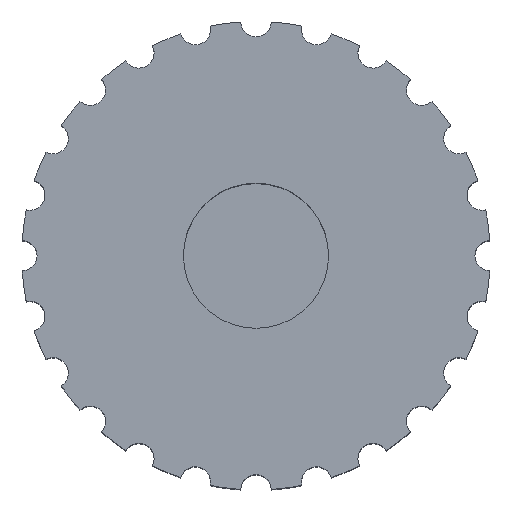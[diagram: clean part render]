
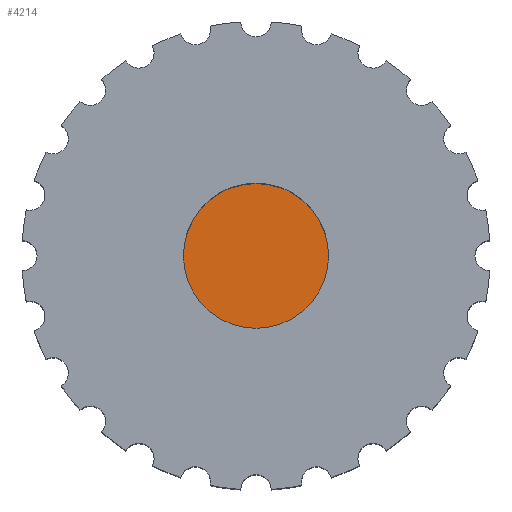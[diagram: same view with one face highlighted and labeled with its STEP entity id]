
A CAD part, top view. The second image highlights one B-rep face of the part: STEP entity #4214.
In plain terms, the highlighted planar face has unit normal (0, 0, 1).
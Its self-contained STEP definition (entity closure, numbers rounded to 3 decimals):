
#1554 = CYLINDRICAL_SURFACE('',#1555,3.1);
#1555 = AXIS2_PLACEMENT_3D('',#1556,#1557,#1558);
#1556 = CARTESIAN_POINT('',(0.,0.,3.));
#1557 = DIRECTION('',(0.,0.,1.));
#1558 = DIRECTION('',(1.,0.,-0.));
#3964 = VERTEX_POINT('',#3965);
#3965 = CARTESIAN_POINT('',(3.1,0.,3.));
#3986 = EDGE_CURVE('',#3964,#3964,#3987,.T.);
#3987 = SURFACE_CURVE('',#3988,(#3993,#4000),.PCURVE_S1.);
#3988 = CIRCLE('',#3989,3.1);
#3989 = AXIS2_PLACEMENT_3D('',#3990,#3991,#3992);
#3990 = CARTESIAN_POINT('',(0.,0.,3.));
#3991 = DIRECTION('',(0.,0.,1.));
#3992 = DIRECTION('',(1.,0.,-0.));
#3993 = PCURVE('',#1554,#3994);
#3994 = DEFINITIONAL_REPRESENTATION('',(#3995),#3999);
#3995 = LINE('',#3996,#3997);
#3996 = CARTESIAN_POINT('',(0.,0.));
#3997 = VECTOR('',#3998,1.);
#3998 = DIRECTION('',(1.,0.));
#3999 = ( GEOMETRIC_REPRESENTATION_CONTEXT(2)
PARAMETRIC_REPRESENTATION_CONTEXT() REPRESENTATION_CONTEXT('2D SPACE',''
  ) );
#4000 = PCURVE('',#4001,#4006);
#4001 = PLANE('',#4002);
#4002 = AXIS2_PLACEMENT_3D('',#4003,#4004,#4005);
#4003 = CARTESIAN_POINT('',(0.,0.,3.));
#4004 = DIRECTION('',(0.,0.,1.));
#4005 = DIRECTION('',(1.,0.,-0.));
#4006 = DEFINITIONAL_REPRESENTATION('',(#4007),#4011);
#4007 = CIRCLE('',#4008,3.1);
#4008 = AXIS2_PLACEMENT_2D('',#4009,#4010);
#4009 = CARTESIAN_POINT('',(0.,0.));
#4010 = DIRECTION('',(1.,0.));
#4011 = ( GEOMETRIC_REPRESENTATION_CONTEXT(2)
PARAMETRIC_REPRESENTATION_CONTEXT() REPRESENTATION_CONTEXT('2D SPACE',''
  ) );
#4214 = ADVANCED_FACE('',(#4215),#4001,.T.);
#4215 = FACE_BOUND('',#4216,.F.);
#4216 = EDGE_LOOP('',(#4217));
#4217 = ORIENTED_EDGE('',*,*,#3986,.F.);
